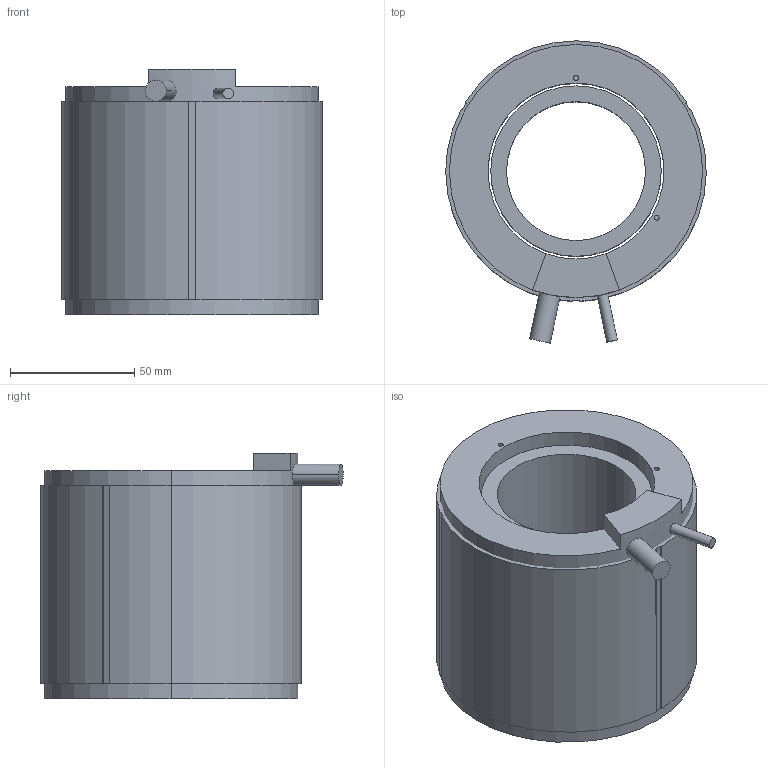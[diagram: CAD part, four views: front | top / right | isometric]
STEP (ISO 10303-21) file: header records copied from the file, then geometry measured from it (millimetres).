
FILE_DESCRIPTION (( 'STEP AP203' ), '1' );
FILE_NAME ('TM105-92 3D.STEP', '2024-01-12T02:47:35', ( '' ), ( '' ), 'SwSTEP 2.0', 'SolidWorks 2021', '' );
FILE_SCHEMA (( 'CONFIG_CONTROL_DESIGN' ));
Length unit declared in the file: millimetre
Products named in the file (1): TM105-92 3D
Bounding box: 104.99 x 121.85 x 99 mm (x, y, z)
Volume: 589378.3 mm3; surface area: 149894.5 mm2
Topology: 3 solids, 3 shells, 52 faces, 129 edges, 86 vertices
Faces by surface type: plane 30, cylinder 22
Entity records: 1766 total; most frequent: CARTESIAN_POINT 392, DIRECTION 275, ORIENTED_EDGE 258, EDGE_CURVE 129, AXIS2_PLACEMENT_3D 97, VERTEX_POINT 86, VECTOR 81, LINE 81
